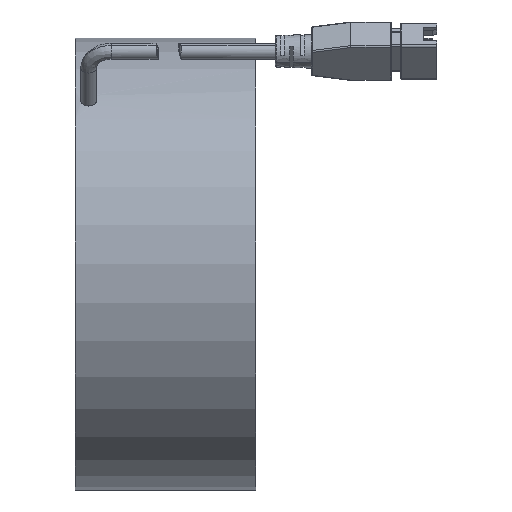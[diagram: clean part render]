
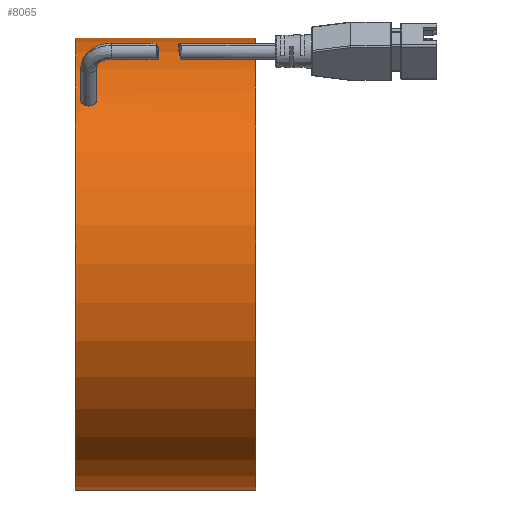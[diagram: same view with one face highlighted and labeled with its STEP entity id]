
A CAD part, left-side view. The second image highlights one B-rep face of the part: STEP entity #8065.
In plain terms, the highlighted cylindrical face has radius 50 mm (diameter 100 mm), a partial arc.
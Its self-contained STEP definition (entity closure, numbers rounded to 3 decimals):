
#155 = CARTESIAN_POINT ( 'NONE',  ( 0., 40., 50. ) ) ;
#406 = CARTESIAN_POINT ( 'NONE',  ( -33.59, 38.32, 37.037 ) ) ;
#416 = CARTESIAN_POINT ( 'NONE',  ( -33.469, 35.843, 37.146 ) ) ;
#444 = CARTESIAN_POINT ( 'NONE',  ( -33.155, 36.771, 37.426 ) ) ;
#464 = CARTESIAN_POINT ( 'NONE',  ( -35.38, 38.157, 35.331 ) ) ;
#885 = B_SPLINE_CURVE_WITH_KNOTS ( 'NONE', 3,
 ( #7564, #3706, #3094, #4276, #4965, #4331, #1063, #8139, #464, #1090, #7533, #6287, #6937, #5665, #3672, #3755, #3727, #6873, #2370, #3002, #406, #1728, #3058, #8108, #3032, #6321, #7510, #4993 ),
 .UNSPECIFIED., .F., .F.,
 ( 4, 2, 2, 2, 2, 2, 2, 2, 2, 2, 2, 2, 2, 4 ),
 ( 0., 0., 0.001, 0.001, 0.001, 0.002, 0.003, 0.003, 0.003, 0.004, 0.004, 0.004, 0.005, 0.005 ),
 .UNSPECIFIED. ) ;
#1063 = CARTESIAN_POINT ( 'NONE',  ( -35.522, 37.876, 35.188 ) ) ;
#1073 = CARTESIAN_POINT ( 'NONE',  ( -34.842, 35.339, 35.861 ) ) ;
#1090 = CARTESIAN_POINT ( 'NONE',  ( -35.209, 38.399, 35.502 ) ) ;
#1162 = CARTESIAN_POINT ( 'NONE',  ( 0., 0., 0. ) ) ;
#1678 = CARTESIAN_POINT ( 'NONE',  ( -35.521, 36.121, 35.189 ) ) ;
#1728 = CARTESIAN_POINT ( 'NONE',  ( -33.469, 38.157, 37.146 ) ) ;
#1742 = DIRECTION ( 'NONE',  ( 0., 0., -1. ) ) ;
#1760 = LINE ( 'NONE', #4576, #4947 ) ;
#1771 = CARTESIAN_POINT ( 'NONE',  ( -33.414, 35.933, 37.196 ) ) ;
#1804 = CARTESIAN_POINT ( 'NONE',  ( -33.793, 35.471, 36.852 ) ) ;
#1948 = VECTOR ( 'NONE', #2992, 1000. ) ;
#2085 = ORIENTED_EDGE ( 'NONE', *, *, #2573, .T. ) ;
#2337 = CARTESIAN_POINT ( 'NONE',  ( -33.147, 37., 37.434 ) ) ;
#2370 = CARTESIAN_POINT ( 'NONE',  ( -33.796, 38.519, 36.849 ) ) ;
#2381 = CARTESIAN_POINT ( 'NONE',  ( -34.27, 35.25, 36.409 ) ) ;
#2432 = CARTESIAN_POINT ( 'NONE',  ( -35.38, 35.843, 35.33 ) ) ;
#2521 = EDGE_CURVE ( 'NONE', #4988, #6929, #3415, .T. ) ;
#2573 = EDGE_CURVE ( 'NONE', #5809, #3370, #7954, .T. ) ;
#2960 = CARTESIAN_POINT ( 'NONE',  ( -33.147, 36.884, 37.434 ) ) ;
#2986 = CARTESIAN_POINT ( 'NONE',  ( -33.319, 36.124, 37.28 ) ) ;
#2992 = DIRECTION ( 'NONE',  ( 0., -1., 0. ) ) ;
#3002 = CARTESIAN_POINT ( 'NONE',  ( -33.656, 38.392, 36.977 ) ) ;
#3005 = EDGE_CURVE ( 'NONE', #3370, #5809, #885, .T. ) ;
#3032 = CARTESIAN_POINT ( 'NONE',  ( -33.279, 37.777, 37.316 ) ) ;
#3041 = CARTESIAN_POINT ( 'NONE',  ( -33.279, 36.224, 37.316 ) ) ;
#3058 = CARTESIAN_POINT ( 'NONE',  ( -33.415, 38.068, 37.195 ) ) ;
#3074 = CARTESIAN_POINT ( 'NONE',  ( -35.559, 36.223, 35.15 ) ) ;
#3094 = CARTESIAN_POINT ( 'NONE',  ( -35.676, 37.229, 35.032 ) ) ;
#3370 = VERTEX_POINT ( 'NONE', #6980 ) ;
#3415 = CIRCLE ( 'NONE', #6634, 50. ) ;
#3653 = CARTESIAN_POINT ( 'NONE',  ( -34.102, 35.296, 36.566 ) ) ;
#3672 = CARTESIAN_POINT ( 'NONE',  ( -34.27, 38.739, 36.408 ) ) ;
#3706 = CARTESIAN_POINT ( 'NONE',  ( -35.684, 37.116, 35.023 ) ) ;
#3727 = CARTESIAN_POINT ( 'NONE',  ( -34.027, 38.661, 36.636 ) ) ;
#3738 = CARTESIAN_POINT ( 'NONE',  ( -35.684, 36.769, 35.023 ) ) ;
#3755 = CARTESIAN_POINT ( 'NONE',  ( -34.106, 38.694, 36.562 ) ) ;
#3841 = DIRECTION ( 'NONE',  ( 0., 0., -1. ) ) ;
#3852 = CARTESIAN_POINT ( 'NONE',  ( 0., 40., -50. ) ) ;
#3854 = EDGE_CURVE ( 'NONE', #8179, #6929, #1760, .T. ) ;
#3985 = CIRCLE ( 'NONE', #5129, 50. ) ;
#4075 = EDGE_LOOP ( 'NONE', ( #2085, #6224 ) ) ;
#4234 = CARTESIAN_POINT ( 'NONE',  ( -35.684, 37., 35.023 ) ) ;
#4259 = CARTESIAN_POINT ( 'NONE',  ( 0., 0., 0. ) ) ;
#4276 = CARTESIAN_POINT ( 'NONE',  ( -35.645, 37.453, 35.063 ) ) ;
#4283 = ORIENTED_EDGE ( 'NONE', *, *, #2521, .T. ) ;
#4285 = CARTESIAN_POINT ( 'NONE',  ( -33.214, 36.436, 37.375 ) ) ;
#4330 = EDGE_CURVE ( 'NONE', #6733, #4988, #5771, .T. ) ;
#4331 = CARTESIAN_POINT ( 'NONE',  ( -35.56, 37.776, 35.15 ) ) ;
#4543 = CARTESIAN_POINT ( 'NONE',  ( 0., 40., 0. ) ) ;
#4563 = DIRECTION ( 'NONE',  ( 0., -1., 0. ) ) ;
#4576 = CARTESIAN_POINT ( 'NONE',  ( 0., 0., 50. ) ) ;
#4758 = ORIENTED_EDGE ( 'NONE', *, *, #5944, .T. ) ;
#4840 = FACE_OUTER_BOUND ( 'NONE', #5801, .T. ) ;
#4863 = CARTESIAN_POINT ( 'NONE',  ( -33.188, 36.547, 37.397 ) ) ;
#4945 = CARTESIAN_POINT ( 'NONE',  ( -33.649, 35.601, 36.984 ) ) ;
#4947 = VECTOR ( 'NONE', #7168, 1000. ) ;
#4965 = CARTESIAN_POINT ( 'NONE',  ( -35.621, 37.564, 35.087 ) ) ;
#4977 = CARTESIAN_POINT ( 'NONE',  ( -35.067, 35.481, 35.642 ) ) ;
#4988 = VERTEX_POINT ( 'NONE', #7308 ) ;
#4993 = CARTESIAN_POINT ( 'NONE',  ( -33.147, 37., 37.434 ) ) ;
#5048 = CYLINDRICAL_SURFACE ( 'NONE', #6207, 50. ) ;
#5129 = AXIS2_PLACEMENT_3D ( 'NONE', #4543, #4563, #5898 ) ;
#5302 = ORIENTED_EDGE ( 'NONE', *, *, #3854, .F. ) ;
#5584 = ORIENTED_EDGE ( 'NONE', *, *, #4330, .T. ) ;
#5615 = CARTESIAN_POINT ( 'NONE',  ( -34.994, 35.426, 35.713 ) ) ;
#5625 = CARTESIAN_POINT ( 'NONE',  ( 0., 0., -50. ) ) ;
#5646 = CARTESIAN_POINT ( 'NONE',  ( -35.202, 35.608, 35.508 ) ) ;
#5665 = CARTESIAN_POINT ( 'NONE',  ( -34.355, 38.75, 36.329 ) ) ;
#5771 = LINE ( 'NONE', #5625, #1948 ) ;
#5778 = DIRECTION ( 'NONE',  ( 0., -1., 0. ) ) ;
#5801 = EDGE_LOOP ( 'NONE', ( #5302, #4758, #5584, #4283 ) ) ;
#5809 = VERTEX_POINT ( 'NONE', #2337 ) ;
#5898 = DIRECTION ( 'NONE',  ( 0., 0., -1. ) ) ;
#5944 = EDGE_CURVE ( 'NONE', #8179, #6733, #3985, .T. ) ;
#6207 = AXIS2_PLACEMENT_3D ( 'NONE', #1162, #5778, #3841 ) ;
#6224 = ORIENTED_EDGE ( 'NONE', *, *, #3005, .T. ) ;
#6241 = CARTESIAN_POINT ( 'NONE',  ( -33.147, 37., 37.434 ) ) ;
#6287 = CARTESIAN_POINT ( 'NONE',  ( -34.769, 38.704, 35.933 ) ) ;
#6298 = CARTESIAN_POINT ( 'NONE',  ( -35.265, 35.68, 35.446 ) ) ;
#6321 = CARTESIAN_POINT ( 'NONE',  ( -33.181, 37.459, 37.404 ) ) ;
#6634 = AXIS2_PLACEMENT_3D ( 'NONE', #4259, #7518, #1742 ) ;
#6733 = VERTEX_POINT ( 'NONE', #3852 ) ;
#6771 = FACE_BOUND ( 'NONE', #4075, .T. ) ;
#6873 = CARTESIAN_POINT ( 'NONE',  ( -33.871, 38.574, 36.78 ) ) ;
#6887 = CARTESIAN_POINT ( 'NONE',  ( -34.602, 35.261, 36.093 ) ) ;
#6917 = CARTESIAN_POINT ( 'NONE',  ( -34.518, 35.25, 36.173 ) ) ;
#6929 = VERTEX_POINT ( 'NONE', #7855 ) ;
#6937 = CARTESIAN_POINT ( 'NONE',  ( -34.603, 38.75, 36.093 ) ) ;
#6943 = CARTESIAN_POINT ( 'NONE',  ( -35.432, 35.932, 35.279 ) ) ;
#6980 = CARTESIAN_POINT ( 'NONE',  ( -35.684, 37., 35.023 ) ) ;
#7168 = DIRECTION ( 'NONE',  ( 0., -1., 0. ) ) ;
#7308 = CARTESIAN_POINT ( 'NONE',  ( 0., 0., -50. ) ) ;
#7510 = CARTESIAN_POINT ( 'NONE',  ( -33.147, 37.231, 37.434 ) ) ;
#7518 = DIRECTION ( 'NONE',  ( 0., 1., 0. ) ) ;
#7533 = CARTESIAN_POINT ( 'NONE',  ( -35.07, 38.529, 35.639 ) ) ;
#7564 = CARTESIAN_POINT ( 'NONE',  ( -35.684, 37., 35.023 ) ) ;
#7572 = CARTESIAN_POINT ( 'NONE',  ( -35.652, 36.541, 35.056 ) ) ;
#7855 = CARTESIAN_POINT ( 'NONE',  ( 0., 0., 50. ) ) ;
#7954 = B_SPLINE_CURVE_WITH_KNOTS ( 'NONE', 3,
 ( #6241, #2960, #444, #4863, #4285, #3041, #2986, #1771, #416, #4945, #1804, #3653, #2381, #6917, #6887, #8178, #1073, #5615, #4977, #5646, #6298, #2432, #6943, #1678, #3074, #7572, #3738, #4234 ),
 .UNSPECIFIED., .F., .F.,
 ( 4, 2, 2, 2, 2, 2, 2, 2, 2, 2, 2, 2, 2, 4 ),
 ( 0.005, 0.006, 0.006, 0.006, 0.007, 0.008, 0.008, 0.009, 0.009, 0.009, 0.01, 0.01, 0.01, 0.011 ),
 .UNSPECIFIED. ) ;
#8065 = ADVANCED_FACE ( 'NONE', ( #4840, #6771 ), #5048, .T. ) ;
#8108 = CARTESIAN_POINT ( 'NONE',  ( -33.32, 37.879, 37.28 ) ) ;
#8139 = CARTESIAN_POINT ( 'NONE',  ( -35.432, 38.067, 35.278 ) ) ;
#8178 = CARTESIAN_POINT ( 'NONE',  ( -34.764, 35.306, 35.937 ) ) ;
#8179 = VERTEX_POINT ( 'NONE', #155 ) ;
